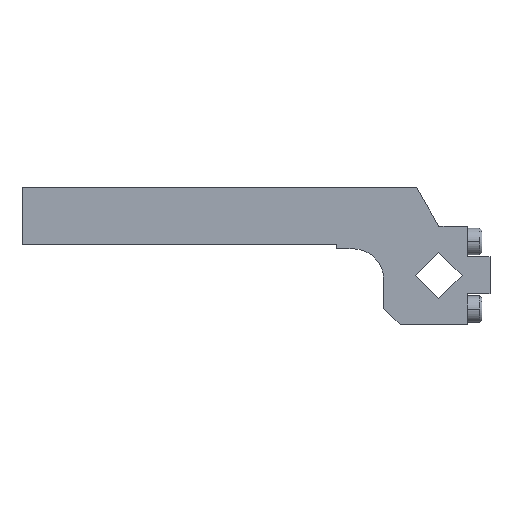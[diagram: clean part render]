
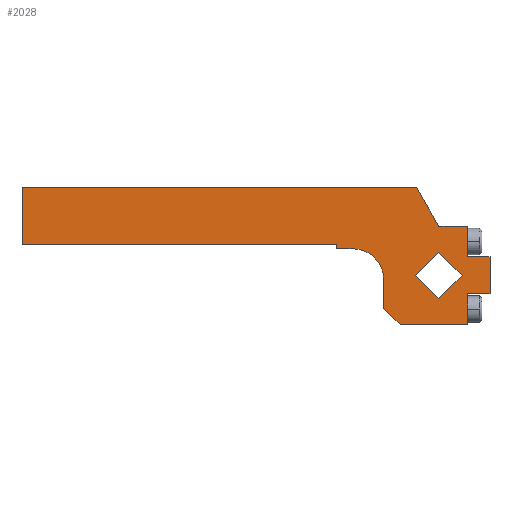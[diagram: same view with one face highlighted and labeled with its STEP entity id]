
A CAD part, top view. The second image highlights one B-rep face of the part: STEP entity #2028.
In plain terms, the highlighted planar face has unit normal (0, 0, 1).
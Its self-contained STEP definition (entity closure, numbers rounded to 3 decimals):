
#51=CARTESIAN_POINT('',(-31.393,8.607,10.0));
#52=VERTEX_POINT('',#51);
#68=CARTESIAN_POINT('',(-27.,-2.0,10.0));
#69=VERTEX_POINT('',#68);
#76=CARTESIAN_POINT('',(-42.,-2.,10.0));
#77=DIRECTION('',(0.,0.,1.));
#78=DIRECTION('',(0.707,0.707,0.));
#79=AXIS2_PLACEMENT_3D('',#76,#77,#78);
#80=CIRCLE('',#79,15.);
#81=EDGE_CURVE('',#69,#52,#80,.T.);
#1095=CARTESIAN_POINT('',(0.0,11.314,10.0));
#1096=VERTEX_POINT('',#1095);
#1097=CARTESIAN_POINT('',(11.314,0.0,10.0));
#1098=VERTEX_POINT('',#1097);
#1099=CARTESIAN_POINT('',(0.0,11.314,10.0));
#1100=DIRECTION('',(0.707,-0.707,0.0));
#1101=VECTOR('',#1100,16.);
#1102=LINE('',#1099,#1101);
#1103=EDGE_CURVE('',#1096,#1098,#1102,.T.);
#1135=CARTESIAN_POINT('',(0.0,-11.314,10.0));
#1136=VERTEX_POINT('',#1135);
#1137=CARTESIAN_POINT('',(11.314,0.0,10.0));
#1138=DIRECTION('',(-0.707,-0.707,0.0));
#1139=VECTOR('',#1138,16.);
#1140=LINE('',#1137,#1139);
#1141=EDGE_CURVE('',#1098,#1136,#1140,.T.);
#1166=CARTESIAN_POINT('',(-11.314,0.0,10.0));
#1167=VERTEX_POINT('',#1166);
#1168=CARTESIAN_POINT('',(0.0,-11.314,10.0));
#1169=DIRECTION('',(-0.707,0.707,0.0));
#1170=VECTOR('',#1169,16.);
#1171=LINE('',#1168,#1170);
#1172=EDGE_CURVE('',#1136,#1167,#1171,.T.);
#1197=CARTESIAN_POINT('',(-11.314,0.0,10.0));
#1198=DIRECTION('',(0.707,0.707,0.0));
#1199=VECTOR('',#1198,16.);
#1200=LINE('',#1197,#1199);
#1201=EDGE_CURVE('',#1167,#1096,#1200,.T.);
#1411=CARTESIAN_POINT('',(-50.,13.0,10.0));
#1412=VERTEX_POINT('',#1411);
#1413=CARTESIAN_POINT('',(-50.,15.0,10.0));
#1414=VERTEX_POINT('',#1413);
#1415=CARTESIAN_POINT('',(-50.,13.0,10.0));
#1416=DIRECTION('',(0.0,1.0,0.0));
#1417=VECTOR('',#1416,2.0);
#1418=LINE('',#1415,#1417);
#1419=EDGE_CURVE('',#1412,#1414,#1418,.T.);
#1451=CARTESIAN_POINT('',(-204.,15.0,10.));
#1452=VERTEX_POINT('',#1451);
#1453=CARTESIAN_POINT('',(-50.,15.0,10.0));
#1454=DIRECTION('',(-1.0,0.0,0.0));
#1455=VECTOR('',#1454,154.);
#1456=LINE('',#1453,#1455);
#1457=EDGE_CURVE('',#1414,#1452,#1456,.T.);
#1514=CARTESIAN_POINT('',(-204.,43.0,10.));
#1515=VERTEX_POINT('',#1514);
#1516=CARTESIAN_POINT('',(-204.,15.0,10.));
#1517=DIRECTION('',(0.0,1.0,0.0));
#1518=VECTOR('',#1517,28.0);
#1519=LINE('',#1516,#1518);
#1520=EDGE_CURVE('',#1452,#1515,#1519,.T.);
#1545=CARTESIAN_POINT('',(-10.97,43.0,10.0));
#1546=VERTEX_POINT('',#1545);
#1547=CARTESIAN_POINT('',(-204.,43.0,10.));
#1548=DIRECTION('',(1.0,0.0,0.0));
#1549=VECTOR('',#1548,193.03);
#1550=LINE('',#1547,#1549);
#1551=EDGE_CURVE('',#1515,#1546,#1550,.T.);
#1608=CARTESIAN_POINT('',(0.0,24.,10.0));
#1609=VERTEX_POINT('',#1608);
#1610=CARTESIAN_POINT('',(-10.97,43.0,10.0));
#1611=DIRECTION('',(0.5,-0.866,0.0));
#1612=VECTOR('',#1611,21.939);
#1613=LINE('',#1610,#1612);
#1614=EDGE_CURVE('',#1546,#1609,#1613,.T.);
#1639=CARTESIAN_POINT('',(14.,24.,10.0));
#1640=VERTEX_POINT('',#1639);
#1641=CARTESIAN_POINT('',(0.0,24.,10.0));
#1642=DIRECTION('',(1.0,0.0,0.0));
#1643=VECTOR('',#1642,14.);
#1644=LINE('',#1641,#1643);
#1645=EDGE_CURVE('',#1609,#1640,#1644,.T.);
#1670=CARTESIAN_POINT('',(14.,9.,10.0));
#1671=VERTEX_POINT('',#1670);
#1672=CARTESIAN_POINT('',(14.,24.,10.0));
#1673=DIRECTION('',(0.0,-1.0,0.0));
#1674=VECTOR('',#1673,15.0);
#1675=LINE('',#1672,#1674);
#1676=EDGE_CURVE('',#1640,#1671,#1675,.T.);
#1705=CARTESIAN_POINT('',(25.0,9.,10.0));
#1706=VERTEX_POINT('',#1705);
#1707=CARTESIAN_POINT('',(14.,9.,10.0));
#1708=DIRECTION('',(1.0,0.0,0.0));
#1709=VECTOR('',#1708,11.);
#1710=LINE('',#1707,#1709);
#1711=EDGE_CURVE('',#1671,#1706,#1710,.T.);
#1736=CARTESIAN_POINT('',(25.0,-9.,10.0));
#1737=VERTEX_POINT('',#1736);
#1738=CARTESIAN_POINT('',(25.0,9.,10.0));
#1739=DIRECTION('',(0.0,-1.0,0.0));
#1740=VECTOR('',#1739,18.0);
#1741=LINE('',#1738,#1740);
#1742=EDGE_CURVE('',#1706,#1737,#1741,.T.);
#1767=CARTESIAN_POINT('',(14.,-9.,10.0));
#1768=VERTEX_POINT('',#1767);
#1769=CARTESIAN_POINT('',(25.0,-9.,10.0));
#1770=DIRECTION('',(-1.0,0.0,0.0));
#1771=VECTOR('',#1770,11.);
#1772=LINE('',#1769,#1771);
#1773=EDGE_CURVE('',#1737,#1768,#1772,.T.);
#1798=CARTESIAN_POINT('',(14.,-24.,10.0));
#1799=VERTEX_POINT('',#1798);
#1800=CARTESIAN_POINT('',(14.,-9.,10.0));
#1801=DIRECTION('',(0.0,-1.0,0.0));
#1802=VECTOR('',#1801,15.);
#1803=LINE('',#1800,#1802);
#1804=EDGE_CURVE('',#1768,#1799,#1803,.T.);
#1833=CARTESIAN_POINT('',(-19.0,-24.,10.0));
#1834=VERTEX_POINT('',#1833);
#1835=CARTESIAN_POINT('',(14.,-24.,10.0));
#1836=DIRECTION('',(-1.0,0.0,0.0));
#1837=VECTOR('',#1836,33.0);
#1838=LINE('',#1835,#1837);
#1839=EDGE_CURVE('',#1799,#1834,#1838,.T.);
#1864=CARTESIAN_POINT('',(-27.,-16.,10.0));
#1865=VERTEX_POINT('',#1864);
#1866=CARTESIAN_POINT('',(-19.0,-24.,10.0));
#1867=DIRECTION('',(-0.707,0.707,0.0));
#1868=VECTOR('',#1867,11.314);
#1869=LINE('',#1866,#1868);
#1870=EDGE_CURVE('',#1834,#1865,#1869,.T.);
#1895=CARTESIAN_POINT('',(-27.,-16.,10.0));
#1896=DIRECTION('',(0.0,1.0,0.0));
#1897=VECTOR('',#1896,14.);
#1898=LINE('',#1895,#1897);
#1899=EDGE_CURVE('',#1865,#69,#1898,.T.);
#1918=CARTESIAN_POINT('',(-42.,13.0,10.0));
#1919=VERTEX_POINT('',#1918);
#1920=CARTESIAN_POINT('',(-42.,-2.,10.0));
#1921=DIRECTION('',(0.,0.,1.));
#1922=DIRECTION('',(0.707,0.707,0.));
#1923=AXIS2_PLACEMENT_3D('',#1920,#1921,#1922);
#1924=CIRCLE('',#1923,15.);
#1925=EDGE_CURVE('',#52,#1919,#1924,.T.);
#1950=CARTESIAN_POINT('',(-42.,13.0,10.0));
#1951=DIRECTION('',(-1.0,0.0,0.0));
#1952=VECTOR('',#1951,8.0);
#1953=LINE('',#1950,#1952);
#1954=EDGE_CURVE('',#1919,#1412,#1953,.T.);
#1998=CARTESIAN_POINT('',(-50.,13.0,10.0));
#1999=DIRECTION('',(0.0,0.0,1.0));
#2000=DIRECTION('',(1.0,0.0,0.0));
#2001=AXIS2_PLACEMENT_3D('',#1998,#1999,#2000);
#2002=PLANE('',#2001);
#2003=ORIENTED_EDGE('',*,*,#1419,.F.);
#2004=ORIENTED_EDGE('',*,*,#1954,.F.);
#2005=ORIENTED_EDGE('',*,*,#1925,.F.);
#2006=ORIENTED_EDGE('',*,*,#81,.F.);
#2007=ORIENTED_EDGE('',*,*,#1899,.F.);
#2008=ORIENTED_EDGE('',*,*,#1870,.F.);
#2009=ORIENTED_EDGE('',*,*,#1839,.F.);
#2010=ORIENTED_EDGE('',*,*,#1804,.F.);
#2011=ORIENTED_EDGE('',*,*,#1773,.F.);
#2012=ORIENTED_EDGE('',*,*,#1742,.F.);
#2013=ORIENTED_EDGE('',*,*,#1711,.F.);
#2014=ORIENTED_EDGE('',*,*,#1676,.F.);
#2015=ORIENTED_EDGE('',*,*,#1645,.F.);
#2016=ORIENTED_EDGE('',*,*,#1614,.F.);
#2017=ORIENTED_EDGE('',*,*,#1551,.F.);
#2018=ORIENTED_EDGE('',*,*,#1520,.F.);
#2019=ORIENTED_EDGE('',*,*,#1457,.F.);
#2020=EDGE_LOOP('',(#2003,#2004,#2005,#2006,#2007,#2008,#2009,#2010,#2011,#2012,#2013,#2014,#2015,#2016,#2017,#2018,#2019));
#2021=FACE_OUTER_BOUND('',#2020,.T.);
#2022=ORIENTED_EDGE('',*,*,#1103,.T.);
#2023=ORIENTED_EDGE('',*,*,#1141,.T.);
#2024=ORIENTED_EDGE('',*,*,#1172,.T.);
#2025=ORIENTED_EDGE('',*,*,#1201,.T.);
#2026=EDGE_LOOP('',(#2022,#2023,#2024,#2025));
#2027=FACE_BOUND('',#2026,.T.);
#2028=ADVANCED_FACE('',(#2021,#2027),#2002,.T.);
